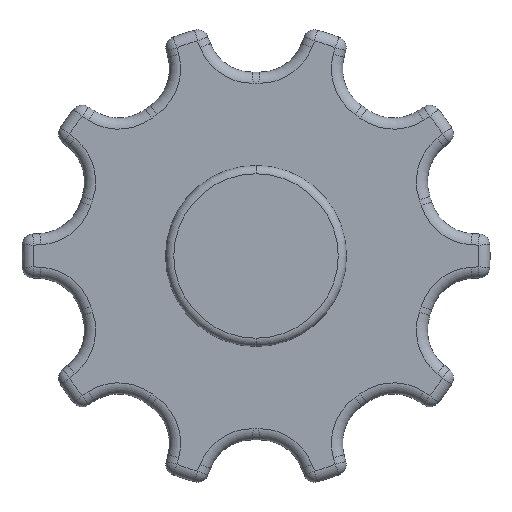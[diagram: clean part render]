
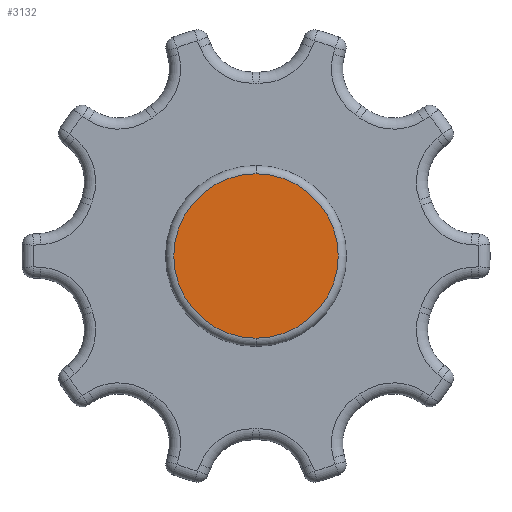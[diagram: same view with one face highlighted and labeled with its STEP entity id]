
A CAD part, left-side view. The second image highlights one B-rep face of the part: STEP entity #3132.
In plain terms, the highlighted planar face has unit normal (-1, 0, 0).
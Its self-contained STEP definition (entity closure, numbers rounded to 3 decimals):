
#1=CARTESIAN_POINT('',(-21.15,0.,0.));
#2=DIRECTION('',(-1.,0.,0.));
#3=DIRECTION('',(0.,0.,-1.));
#4=AXIS2_PLACEMENT_3D('',#1,#2,#3);
#6=CARTESIAN_POINT('',(-21.15,0.,0.));
#7=DIRECTION('',(-1.,0.,0.));
#8=DIRECTION('',(0.,0.,1.));
#9=AXIS2_PLACEMENT_3D('',#6,#7,#8);
#2779=CARTESIAN_POINT('',(-21.15,0.,-29.5));
#2780=CARTESIAN_POINT('',(-21.15,0.,29.5));
#2781=VERTEX_POINT('',#2779);
#2782=VERTEX_POINT('',#2780);
#3121=CARTESIAN_POINT('',(-21.15,0.,0.));
#3122=DIRECTION('',(1.,0.,0.));
#3123=DIRECTION('',(0.,0.,-1.));
#3124=AXIS2_PLACEMENT_3D('',#3121,#3122,#3123);
#3125=PLANE('',#3124);
#3127=ORIENTED_EDGE('',*,*,#3126,.F.);
#3129=ORIENTED_EDGE('',*,*,#3128,.F.);
#3130=EDGE_LOOP('',(#3127,#3129));
#3131=FACE_OUTER_BOUND('',#3130,.F.);
#3132=ADVANCED_FACE('',(#3131),#3125,.F.);
#5=CIRCLE('',#4,29.5);
#10=CIRCLE('',#9,29.5);
#3126=EDGE_CURVE('',#2781,#2782,#5,.T.);
#3128=EDGE_CURVE('',#2782,#2781,#10,.T.);
